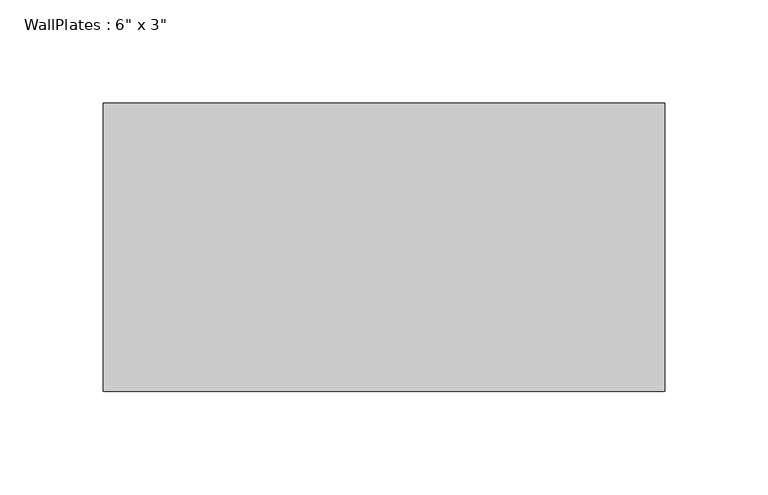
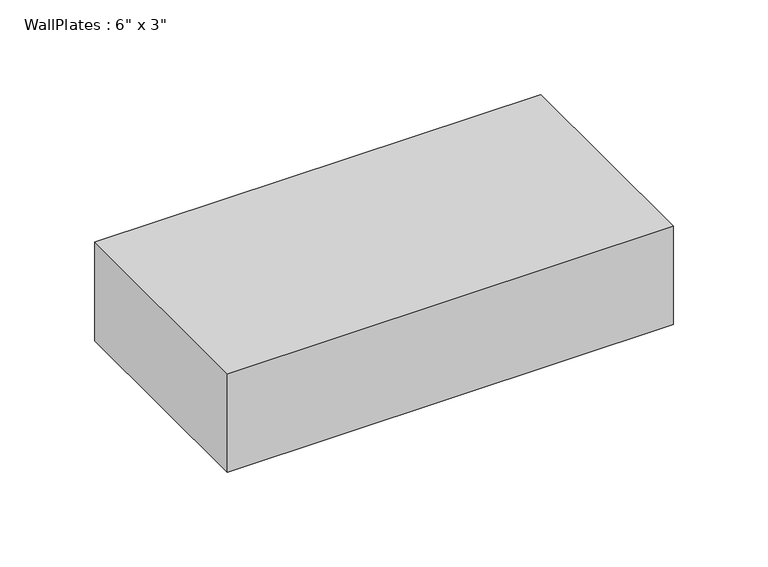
"""IFC4 building model written with IfcOpenShell, lengths in millimetres: beam geometry."""

from ifc_helpers import new_model, si_unit, frame, origin, place, context, project, spatial, polyline, outline, extrude, source, transform, mapped, element, save


def beam_0a899d87(model_context):
    return source(origin(), model_context, "Body", "SweptSolid", [
        extrude(outline(polyline([(-135.8925, -69.85), (-135.8925, 69.85), (135.8925, 69.85), (135.8925, -69.85), (-135.8925, -69.85)])), frame((0.0, 0.0, -31.75), z_axis=(0.0, 0.0, 1.0), x_axis=(1.0, 0.0, 0.0)), (0.0, 0.0, 1.0), 63.5),
    ])


if __name__ == "__main__":
    model = new_model("IFC4")
    model_context = context("Model", 3, world=origin())
    ifc_project = project(units=[si_unit("LENGTHUNIT", "METRE", prefix="MILLI")], contexts=[model_context])
    site = spatial("IfcSite", under=ifc_project)
    building = spatial("IfcBuilding", under=site)
    placement = place(None, origin())
    beam_shape = beam_0a899d87(model_context)
    element("IfcBeam", 1, ObjectType="WallPlates : 6\" x 3\"", at=placement, inside=building, context=model_context, shape_type="MappedRepresentation", body=[
        mapped(beam_shape, transform((0.0, 0.0, 0.0), x_axis=(1.0, 0.0, 0.0), y_axis=(0.0, 1.0, 0.0), z_axis=(0.0, 0.0, 1.0))),
    ])
    save(model, "model.ifc")
